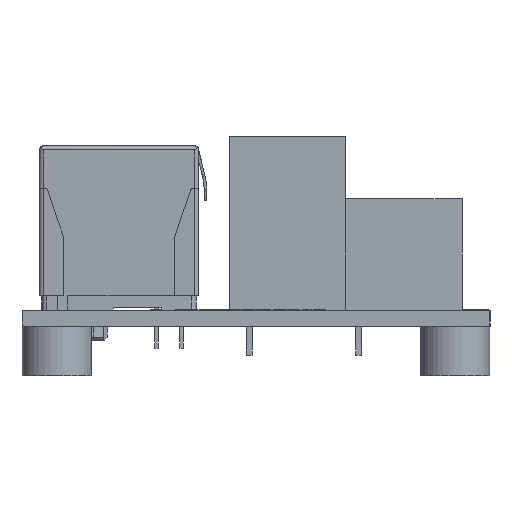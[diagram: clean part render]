
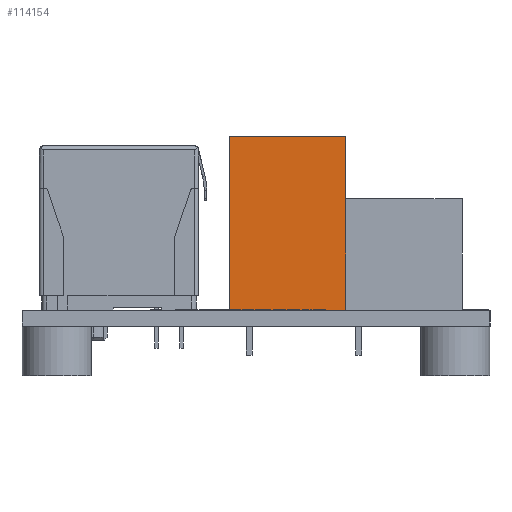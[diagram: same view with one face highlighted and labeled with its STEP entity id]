
A CAD part, left-side view. The second image highlights one B-rep face of the part: STEP entity #114154.
In plain terms, the highlighted planar face has unit normal (-1, 0, 0).
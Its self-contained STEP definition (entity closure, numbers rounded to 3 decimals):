
#113816 = VERTEX_POINT('',#113817);
#113817 = CARTESIAN_POINT('',(-4.25,0.,11.2));
#113825 = EDGE_CURVE('',#113816,#113826,#113828,.T.);
#113826 = VERTEX_POINT('',#113827);
#113827 = CARTESIAN_POINT('',(-4.25,0.,17.5));
#113828 = LINE('',#113829,#113830);
#113829 = CARTESIAN_POINT('',(-4.25,0.,0.));
#113830 = VECTOR('',#113831,1.);
#113831 = DIRECTION('',(0.,0.,1.));
#114035 = EDGE_CURVE('',#114036,#113826,#114038,.T.);
#114036 = VERTEX_POINT('',#114037);
#114037 = CARTESIAN_POINT('',(-4.25,11.7,17.5));
#114038 = LINE('',#114039,#114040);
#114039 = CARTESIAN_POINT('',(-4.25,11.7,17.5));
#114040 = VECTOR('',#114041,1.);
#114041 = DIRECTION('',(0.,-1.,0.));
#114154 = ADVANCED_FACE('',(#114155),#114181,.F.);
#114155 = FACE_BOUND('',#114156,.F.);
#114156 = EDGE_LOOP('',(#114157,#114165,#114166,#114167,#114175));
#114157 = ORIENTED_EDGE('',*,*,#114158,.T.);
#114158 = EDGE_CURVE('',#114159,#114036,#114161,.T.);
#114159 = VERTEX_POINT('',#114160);
#114160 = CARTESIAN_POINT('',(-4.25,11.7,0.));
#114161 = LINE('',#114162,#114163);
#114162 = CARTESIAN_POINT('',(-4.25,11.7,0.));
#114163 = VECTOR('',#114164,1.);
#114164 = DIRECTION('',(0.,0.,1.));
#114165 = ORIENTED_EDGE('',*,*,#114035,.T.);
#114166 = ORIENTED_EDGE('',*,*,#113825,.F.);
#114167 = ORIENTED_EDGE('',*,*,#114168,.F.);
#114168 = EDGE_CURVE('',#114169,#113816,#114171,.T.);
#114169 = VERTEX_POINT('',#114170);
#114170 = CARTESIAN_POINT('',(-4.25,0.,0.));
#114171 = LINE('',#114172,#114173);
#114172 = CARTESIAN_POINT('',(-4.25,0.,0.));
#114173 = VECTOR('',#114174,1.);
#114174 = DIRECTION('',(0.,0.,1.));
#114175 = ORIENTED_EDGE('',*,*,#114176,.F.);
#114176 = EDGE_CURVE('',#114159,#114169,#114177,.T.);
#114177 = LINE('',#114178,#114179);
#114178 = CARTESIAN_POINT('',(-4.25,11.7,0.));
#114179 = VECTOR('',#114180,1.);
#114180 = DIRECTION('',(0.,-1.,0.));
#114181 = PLANE('',#114182);
#114182 = AXIS2_PLACEMENT_3D('',#114183,#114184,#114185);
#114183 = CARTESIAN_POINT('',(-4.25,11.7,0.));
#114184 = DIRECTION('',(1.,0.,0.));
#114185 = DIRECTION('',(0.,-1.,0.));
